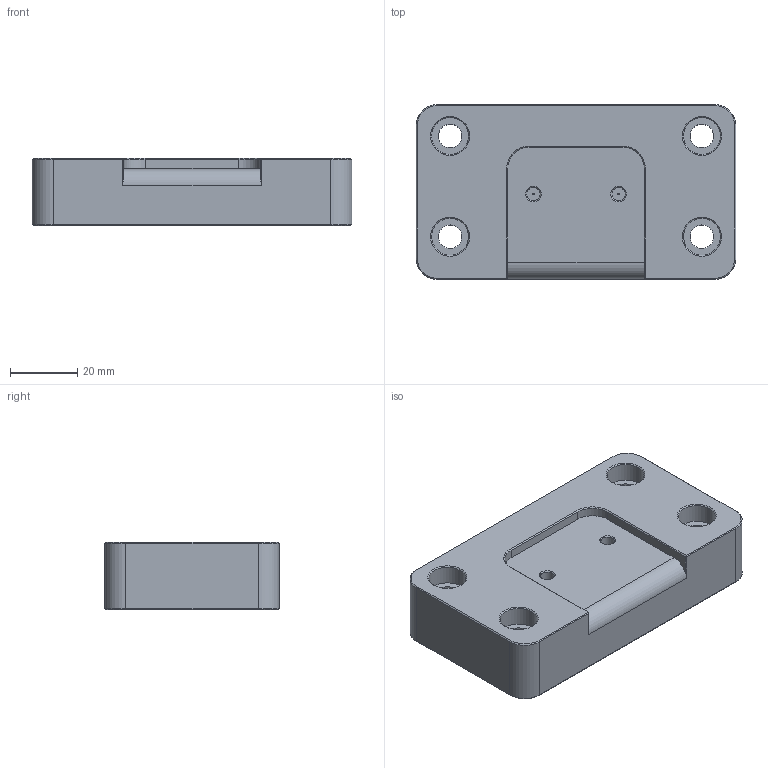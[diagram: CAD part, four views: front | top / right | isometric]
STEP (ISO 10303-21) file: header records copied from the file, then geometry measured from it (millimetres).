
FILE_DESCRIPTION(/* description */ (''),/* implementation_level */ '2;1');
FILE_NAME(/* name */ '54991 - Backstop.step',/* time_stamp */ '2025-10-28T15:02:07-05:00',/* author */ (''),/* organization */ (''),/* preprocessor_version */ 'ST-DEVELOPER v20.1',/* originating_system */ 'Autodesk Translation Framework v14.17.0.0',/* authorisation */ '');
FILE_SCHEMA (('AUTOMOTIVE_DESIGN { 1 0 10303 214 3 1 1 }'));
Length unit declared in the file: millimetre
Products named in the file (1): DOBOT TOKEN DEMO_AIR CLAMP BACKSTOP
Bounding box: 95.25 x 52.07 x 20 mm (x, y, z)
Volume: 88787 mm3; surface area: 17524.1 mm2
Topology: 1 solids, 1 shells, 71 faces, 153 edges, 92 vertices
Faces by surface type: plane 32, cone 20, cylinder 19
Full cylindrical faces by diameter (mm): 0.5 x2, 4 x2, 7.01 x4, 10.998 x4
Entity records: 1963 total; most frequent: DIRECTION 357, CARTESIAN_POINT 317, ORIENTED_EDGE 306, EDGE_CURVE 153, AXIS2_PLACEMENT_3D 132, LINE 93, VECTOR 93, VERTEX_POINT 92
